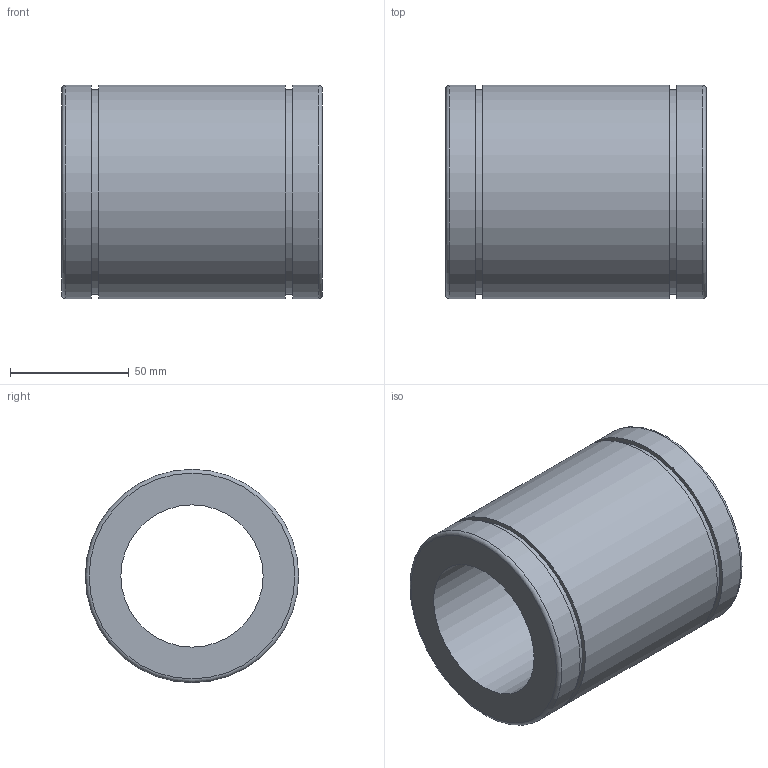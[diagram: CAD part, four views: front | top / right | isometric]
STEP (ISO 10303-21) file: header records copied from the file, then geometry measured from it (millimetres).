
FILE_DESCRIPTION(('STEP AP203'),'1');
FILE_NAME('//192.168.1.1/share/s-4 技術開発/s-4-13_CAD/03_見直し済み/001 修正済み/N/N_TOP/N-60.step','2020-04-02T23:56:34',(' '),(' '),'Spatial InterOp 3D',' ',' ');
FILE_SCHEMA(('CONFIG_CONTROL_DESIGN'));
Length unit declared in the file: millimetre
Products named in the file (1): 1
Bounding box: 110 x 90 x 90 mm (x, y, z)
Volume: 385407.3 mm3; surface area: 60385.7 mm2
Topology: 1 solids, 1 shells, 14 faces, 25 edges, 17 vertices
Faces by surface type: cylinder 6, plane 6, torus 2
Full cylindrical faces by diameter (mm): 60 x1, 86.5 x2, 90 x3
Entity records: 332 total; most frequent: DIRECTION 58, CARTESIAN_POINT 43, AXIS2_PLACEMENT_3D 29, EDGE_LOOP 28, ORIENTED_EDGE 28, FACE_OUTER_BOUND 22, ADVANCED_FACE 14, EDGE_CURVE 14
